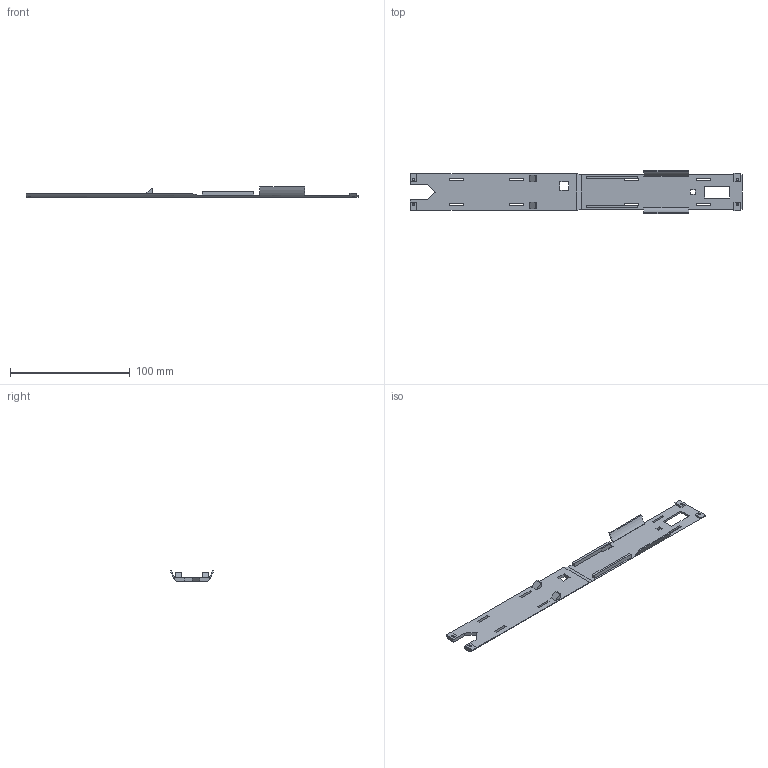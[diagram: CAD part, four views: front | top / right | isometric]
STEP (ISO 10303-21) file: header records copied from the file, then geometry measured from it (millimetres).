
FILE_DESCRIPTION(('SkyG Speed 90B - revision C6B-3 - 2026-10-08','TR-equipment-tray'),'2;1');
FILE_NAME('TR-equipment-tray_C6B-3','2026-10-08T03:13:11',('Author'),( 'Open CASCADE'),'Open CASCADE STEP processor 7.9','Open CASCADE 7.9' ,'Unknown');
FILE_SCHEMA(('AUTOMOTIVE_DESIGN { 1 0 10303 214 1 1 1 1 }'));
Length unit declared in the file: millimetre
Products named in the file (1): TR-equipment-tray C6B-3
Bounding box: 277 x 36.14 x 8.6 mm (x, y, z)
Volume: 17016 mm3; surface area: 18676.8 mm2
Topology: 1 solids, 1 shells, 111 faces, 333 edges, 222 vertices
Faces by surface type: plane 103, cylinder 8
Full cylindrical faces by diameter (mm): 1.6 x4
Entity records: 8264 total; most frequent: CARTESIAN_POINT 2299, DIRECTION 857, ORIENTED_EDGE 666, PCURVE 666, DEFINITIONAL_REPRESENTATION 666, LINE 533, VECTOR 533, B_SPLINE_CURVE_WITH_KNOTS 398
